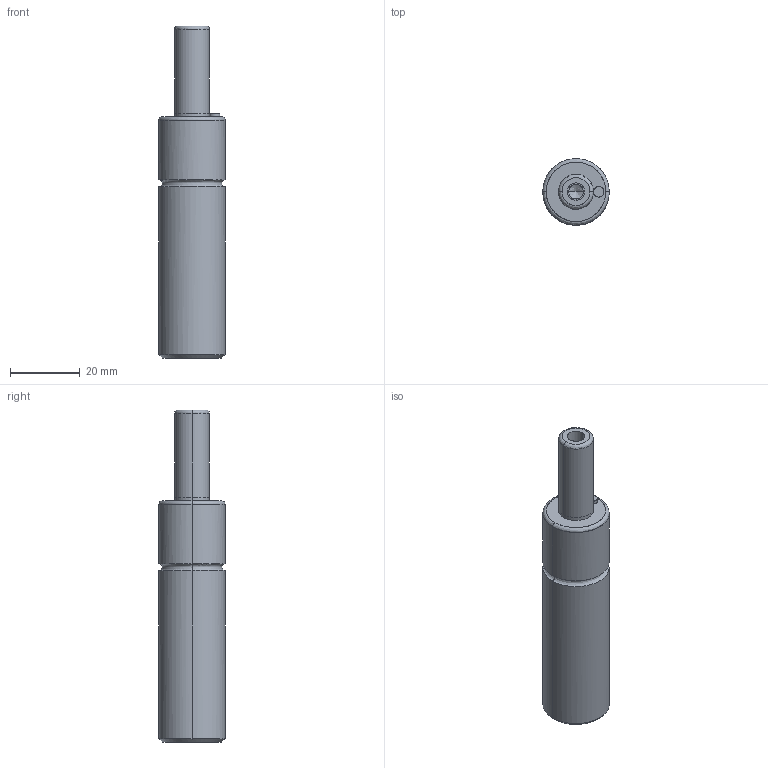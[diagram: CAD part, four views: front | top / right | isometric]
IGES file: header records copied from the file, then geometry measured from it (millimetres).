
Global section: file name: E:\UnigraphicsGraphicData\MISUMI_PRESS-PARTS\IGES\3d_mgsa19-25_04548_r00.igs; native system: NX V5.0; preprocessor: UGS NX IGES V5.0; author: MISUMI; date: 20110105.161431; units: millimetre
Bounding box: 19 x 18.98 x 95 mm (x, y, z)
Surface area: 5778.7 mm2 (no closed solid volume)
Topology: 0 solids, 0 shells, 36 faces, 216 edges, 211 vertices
Faces by surface type: bspline 36
